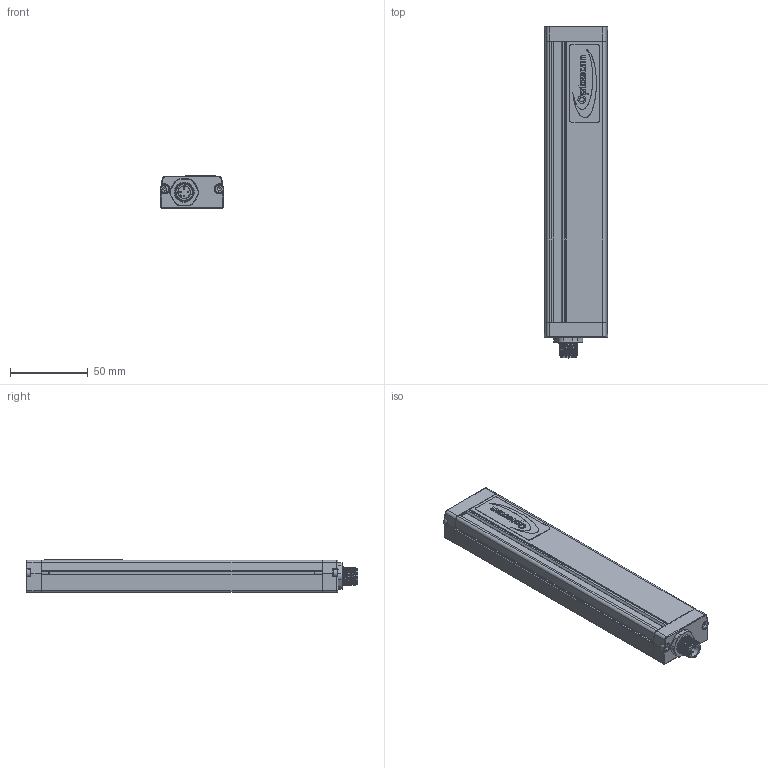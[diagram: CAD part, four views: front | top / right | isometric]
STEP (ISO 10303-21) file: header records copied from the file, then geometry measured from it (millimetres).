
FILE_DESCRIPTION(/* description */ (''),/* implementation_level */ '2;1');
FILE_NAME(/* name */ 'C:\Users\Andrea\SynologyDrive\Optoscan\Libreria Componenti\00 - Barriere\Barriera sorgente\Argo_180_TX.stp',/* time_stamp */ '2022-06-30T15:32:57+02:00',/* author */ ('Andrea'),/* organization */ (''),/* preprocessor_version */ 'ST-DEVELOPER v18.1',/* originating_system */ 'Autodesk Inventor 2022',/* authorisation */ '');
FILE_SCHEMA (('AUTOMOTIVE_DESIGN { 1 0 10303 214 3 1 1 }'));
Length unit declared in the file: millimetre
Products named in the file (1): Argo_180_TX
Bounding box: 40.5 x 212.8 x 20.75 mm (x, y, z)
Volume: 46242.9 mm3; surface area: 56936.6 mm2
Topology: 1 solids, 2 shells, 757 faces, 2033 edges, 1287 vertices
Faces by surface type: plane 338, cylinder 216, bspline 115, torus 74, cone 8, sphere 6
Full cylindrical faces by diameter (mm): 1 x12, 1.2 x4, 2.459 x4, 2.5 x4, 3 x4, 3.5 x4, 5.5 x4, 8 x1, 10 x1, 10.5 x2, 11.75 x8, 12 x1, 12.3 x3, 14.5 x1, 16.7 x1, 17.5 x1
Entity records: 30483 total; most frequent: CARTESIAN_POINT 11236, ORIENTED_EDGE 4050, DIRECTION 3531, EDGE_CURVE 2025, VERTEX_POINT 1287, AXIS2_PLACEMENT_3D 1230, LINE 1071, VECTOR 1071
